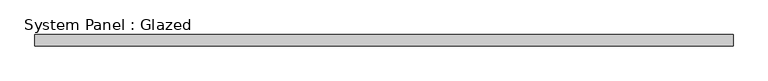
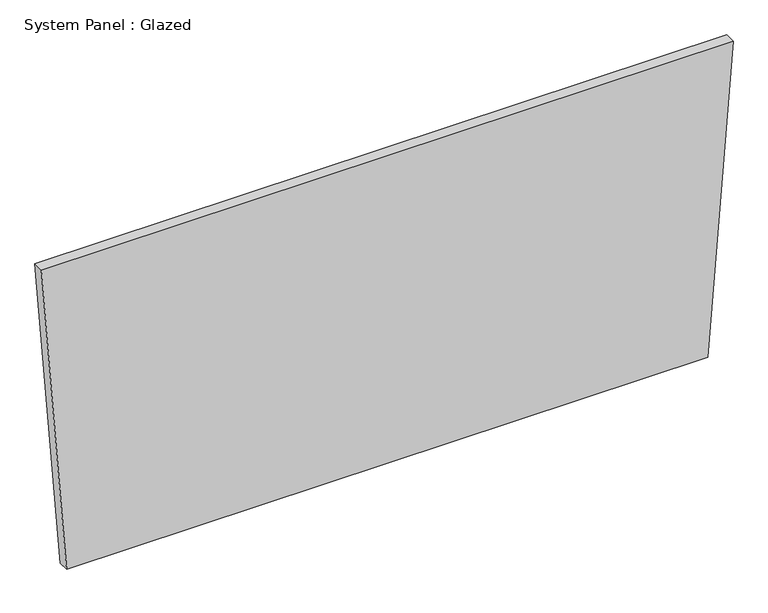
"""IFC4 building model written with IfcOpenShell, lengths in millimetres: plate geometry, System Panel : Glazed."""

from ifc_helpers import new_model, si_unit, frame, origin, place, context, project, spatial, polyline, outline, extrude, source, transform, mapped, element, save


def system_panel_glazed_c6224ab1(model_context):
    return source(origin(), model_context, "Body", "SweptSolid", [
        extrude(outline(polyline([(0.0005539, -735.3292062), (0.0, 735.3292096), (745.3096137, 793.1761208), (745.3102113, -793.1761208), (0.0005539, -735.3292062)])), frame((0.0, 19.05, 0.0), z_axis=(0.0, 1.0, 0.0), x_axis=(0.0, 0.0, 1.0)), (0.0, 0.0, 1.0), 25.4),
    ])


if __name__ == "__main__":
    model = new_model("IFC4")
    model_context = context("Model", 3, world=origin())
    ifc_project = project(units=[si_unit("LENGTHUNIT", "METRE", prefix="MILLI")], contexts=[model_context])
    site = spatial("IfcSite", under=ifc_project)
    building = spatial("IfcBuilding", under=site)
    placement = place(None, origin())
    system_panel_glazed_shape = system_panel_glazed_c6224ab1(model_context)
    element("IfcPlate", 1, ObjectType="System Panel : Glazed", at=placement, inside=building, context=model_context, shape_type="MappedRepresentation", body=[
        mapped(system_panel_glazed_shape, transform((0.0, 0.0, 0.0), x_axis=(1.0, 0.0, 0.0), y_axis=(0.0, 1.0, 0.0), z_axis=(0.0, 0.0, 1.0))),
    ])
    save(model, "model.ifc")
